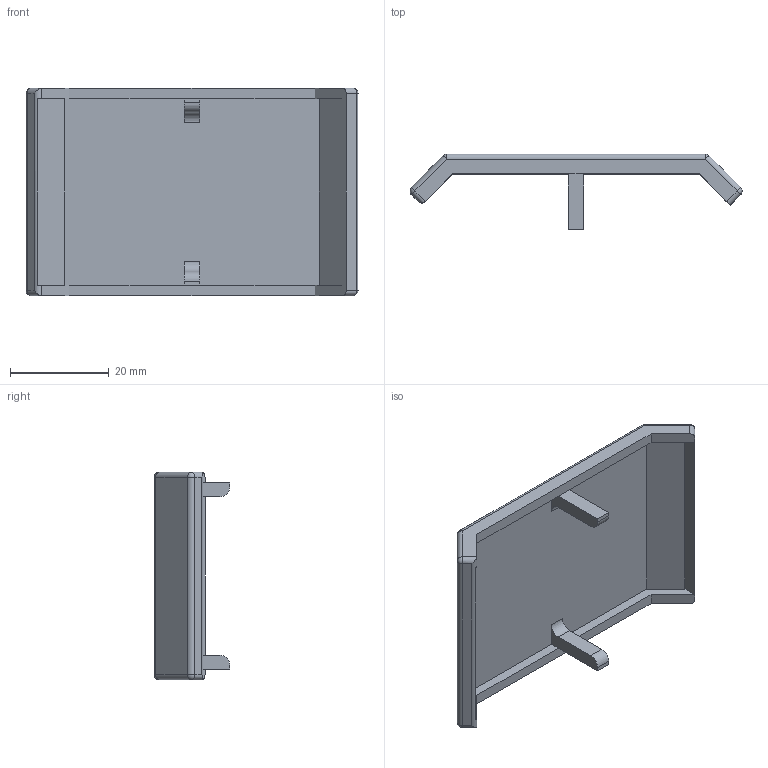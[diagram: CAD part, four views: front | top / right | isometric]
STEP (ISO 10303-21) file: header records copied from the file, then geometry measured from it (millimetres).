
FILE_DESCRIPTION(/* description */ ('www.motedis.com/part/S10BBRC4545','CAx-IF Rec.Pracs.---Representation and Presentation of Product Manufacturing Information (PMI)---4.0---2014-10-13'),/* implementation_level */ '2;1');
FILE_NAME(/* name */ 'Motedis_S10BBRC4545.stp',/* time_stamp */ '2026-09-15T12:45:13+02:00',/* author */ ('Motedis'),/* organization */ ('Motedis GmbH'),/* preprocessor_version */ 'ST-DEVELOPER v20.1',/* originating_system */ 'Autodesk Inventor 2026',/* authorisation */ 'Motedis GmbH');
FILE_SCHEMA (('AP242_MANAGED_MODEL_BASED_3D_ENGINEERING_MIM_LF { 1 0 10303 442 2 1 4 }'));
Length unit declared in the file: millimetre
Products named in the file (1): Motedis_S10BBRC4545
Bounding box: 67.41 x 15.3 x 42.2 mm (x, y, z)
Volume: 7083.8 mm3; surface area: 7511.4 mm2
Topology: 1 solids, 1 shells, 59 faces, 139 edges, 82 vertices
Faces by surface type: plane 32, cylinder 19, sphere 8
Entity records: 1883 total; most frequent: DIRECTION 329, CARTESIAN_POINT 320, ORIENTED_EDGE 278, EDGE_CURVE 139, AXIS2_PLACEMENT_3D 114, LINE 101, VECTOR 101, VERTEX_POINT 82
